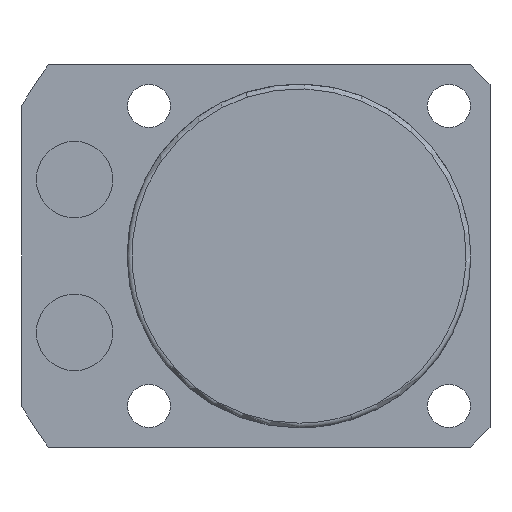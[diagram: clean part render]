
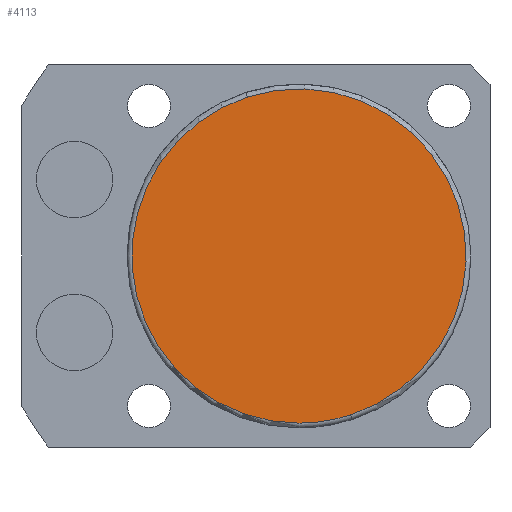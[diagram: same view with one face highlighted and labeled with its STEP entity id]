
A CAD part, front view. The second image highlights one B-rep face of the part: STEP entity #4113.
In plain terms, the highlighted planar face has unit normal (0, -1, 0).
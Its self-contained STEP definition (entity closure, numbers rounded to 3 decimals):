
#4079=CARTESIAN_POINT('',(0.0,-40.5,-17.5));
#4080=VERTEX_POINT('',#4079);
#4081=CARTESIAN_POINT('',(5.408,-40.5,-16.643));
#4082=VERTEX_POINT('',#4081);
#4083=CARTESIAN_POINT('',(0.0,-40.5,0.0));
#4084=DIRECTION('',(0.0,-1.0,0.0));
#4085=DIRECTION('',(0.0,0.0,-1.0));
#4086=AXIS2_PLACEMENT_3D('',#4083,#4084,#4085);
#4087=CIRCLE('',#4086,17.5);
#4088=EDGE_CURVE('no 2739',#4080,#4082,#4087,.T.);
#4089=ORIENTED_EDGE('',*,*,#4088,.T.);
#4090=CARTESIAN_POINT('',(-5.408,-40.5,16.643));
#4091=VERTEX_POINT('',#4090);
#4092=CARTESIAN_POINT('',(0.0,-40.5,0.0));
#4093=DIRECTION('',(0.0,-1.0,0.0));
#4094=DIRECTION('',(0.0,0.0,-1.0));
#4095=AXIS2_PLACEMENT_3D('',#4092,#4093,#4094);
#4096=CIRCLE('',#4095,17.5);
#4097=EDGE_CURVE('no 2745',#4082,#4091,#4096,.T.);
#4098=ORIENTED_EDGE('',*,*,#4097,.T.);
#4099=CARTESIAN_POINT('',(0.0,-40.5,0.0));
#4100=DIRECTION('',(0.0,-1.0,0.0));
#4101=DIRECTION('',(0.0,0.0,-1.0));
#4102=AXIS2_PLACEMENT_3D('',#4099,#4100,#4101);
#4103=CIRCLE('',#4102,17.5);
#4104=EDGE_CURVE('no 2749',#4091,#4080,#4103,.T.);
#4105=ORIENTED_EDGE('',*,*,#4104,.T.);
#4106=EDGE_LOOP('',(#4089,#4098,#4105));
#4107=FACE_OUTER_BOUND('',#4106,.T.);
#4108=CARTESIAN_POINT('',(0.0,-40.5,0.0));
#4109=DIRECTION('',(0.0,-1.0,0.0));
#4110=DIRECTION('',(0.0,0.0,-1.0));
#4111=AXIS2_PLACEMENT_3D('',#4108,#4109,#4110);
#4112=PLANE('',#4111);
#4113=ADVANCED_FACE('no 2730',(#4107),#4112,.T.);
